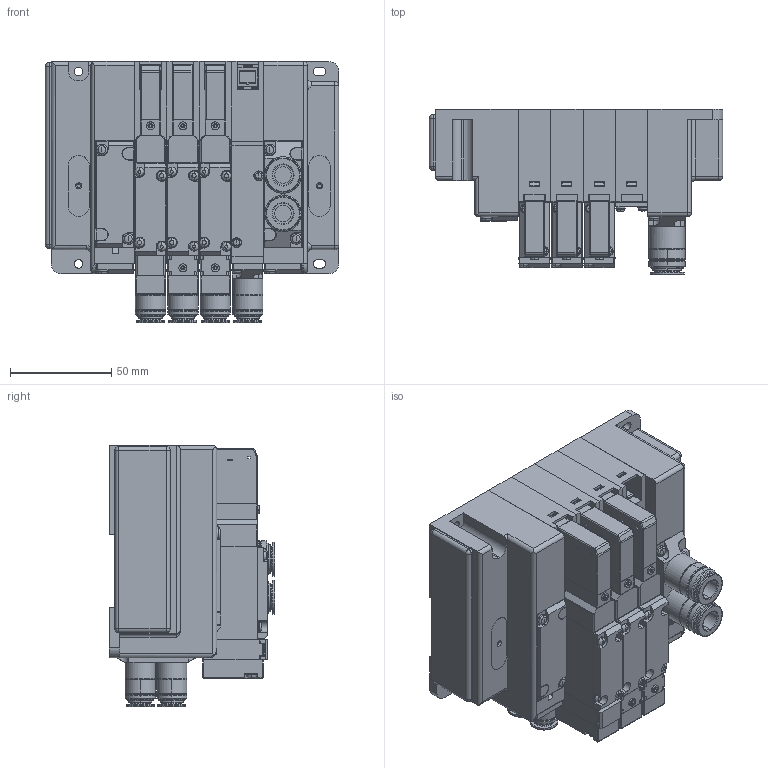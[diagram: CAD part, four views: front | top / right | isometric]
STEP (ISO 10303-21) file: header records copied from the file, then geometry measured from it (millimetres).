
FILE_DESCRIPTION( (''), '2;1');
FILE_NAME ('CVICAD02.4348.F15M4XPJ-JR-F10x_21446.stp','2021-07-12T19:12:45',(''),(''),'spGate 12.6.6','','');
FILE_SCHEMA (('AUTOMOTIVE_DESIGN'));
Length unit declared in the file: millimetre
Products named in the file (22): Assembly; CVICAD02-prt0; CVICAD02-prt1; CVICAD02-prt2; CVICAD02-prt3; CVICAD02-prt4; CVICAD02-asm1; CVICAD02-asm2; CVICAD02-asm3; CVICAD02-asm4; CVICAD02-prt16; CVICAD02-prt5; Y029261_キャップ(DINねじ穴用)_20190809; CVICAD02-prt7; CVICAD02-prt8; CVICAD02-prt9; CVICAD02-prt10; CVICAD02-prt11; CVICAD02-prt12; CVICAD02-prt13; CVICAD02-prt14; CVICAD02-prt15
Assembly tree (37 placements, depth 3):
  Assembly
    CVICAD02-prt0  x4
    CVICAD02-prt1
    CVICAD02-prt2  x3
    CVICAD02-prt3
    CVICAD02-prt4  x4
    CVICAD02-asm1
      CVICAD02-prt5
      Y029261_キャップ(DINねじ穴用)_20190809
    CVICAD02-asm2
      Y029261_キャップ(DINねじ穴用)_20190809
      CVICAD02-prt7
    CVICAD02-asm3
      CVICAD02-prt8
      CVICAD02-prt9
      CVICAD02-prt10
      CVICAD02-prt11
      CVICAD02-prt12
      CVICAD02-prt13
      CVICAD02-prt14
    CVICAD02-asm4  x2
      CVICAD02-prt8
      CVICAD02-prt9
      CVICAD02-prt10
      CVICAD02-prt11
      CVICAD02-prt13
      CVICAD02-prt15
      CVICAD02-prt14
    CVICAD02-prt16
Bounding box: 145 x 81.7 x 129 mm (x, y, z)
Volume: 806578.6 mm3; surface area: 210767.8 mm2
Topology: 39 solids, 39 shells, 3237 faces, 8251 edges, 5276 vertices
Faces by surface type: plane 1974, cylinder 887, bspline 334, sphere 42
Entity records: 72867 total; most frequent: CARTESIAN_POINT 10118, ORIENTED_EDGE 7112, DIRECTION 6741, COLOUR_RGB 4979, PRESENTATION_STYLE_ASSIGNMENT 4979, STYLED_ITEM 4979, EDGE_CURVE 3556, DRAUGHTING_PRE_DEFINED_CURVE_FONT 3556
